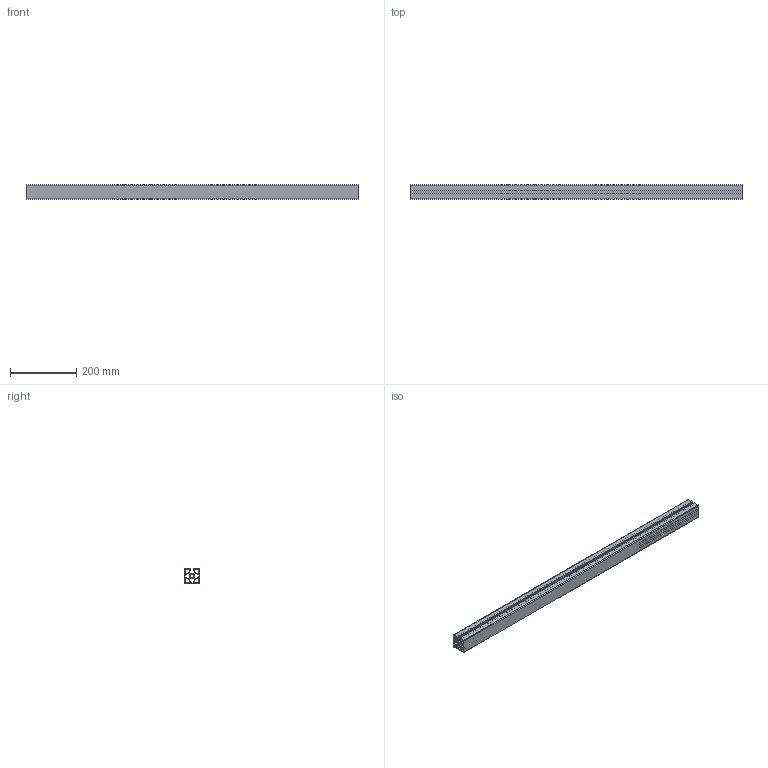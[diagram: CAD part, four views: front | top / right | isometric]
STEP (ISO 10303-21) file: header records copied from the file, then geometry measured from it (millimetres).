
FILE_DESCRIPTION (( 'STEP AP214' ), '1' );
FILE_NAME ('1.0219 45x45 L 3SS vahvist. musta 1000mm.STEP', '2026-03-19T07:57:27', ( '' ), ( '' ), 'SwSTEP 2.0', 'SolidWorks 2025', '' );
FILE_SCHEMA (( 'AUTOMOTIVE_DESIGN' ));
Length unit declared in the file: millimetre
Products named in the file (1): 1.0219 45x45 L 3SS vahvist. musta 1000mm
Bounding box: 1000 x 45 x 45 mm (x, y, z)
Volume: 748078.9 mm3; surface area: 584371.6 mm2
Topology: 1 solids, 1 shells, 143 faces, 423 edges, 282 vertices
Faces by surface type: plane 74, cylinder 69
Entity records: 4870 total; most frequent: CARTESIAN_POINT 849, DIRECTION 849, ORIENTED_EDGE 846, EDGE_CURVE 423, LINE 285, VECTOR 285, VERTEX_POINT 282, AXIS2_PLACEMENT_3D 282
